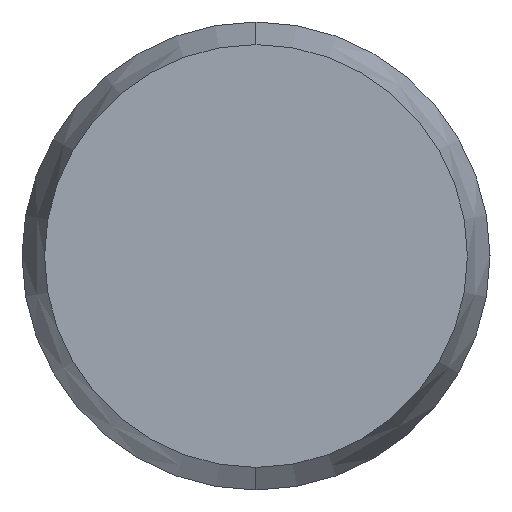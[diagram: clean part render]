
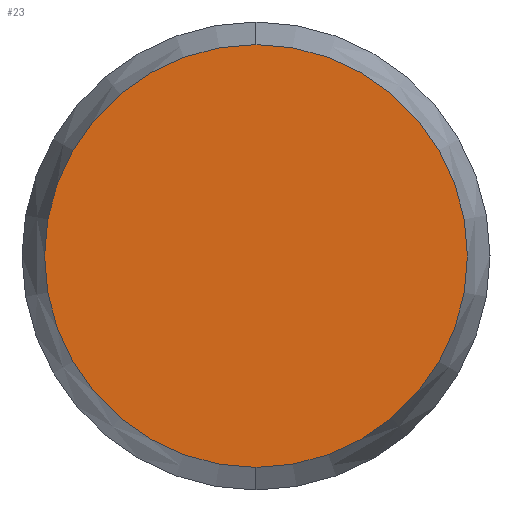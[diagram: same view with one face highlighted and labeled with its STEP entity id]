
A CAD part, left-side view. The second image highlights one B-rep face of the part: STEP entity #23.
In plain terms, the highlighted planar face has unit normal (-1, 0, 0).
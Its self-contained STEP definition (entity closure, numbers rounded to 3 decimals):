
#15 = VERTEX_POINT ( 'NONE', #61 ) ;
#16 = VERTEX_POINT ( 'NONE', #60 ) ;
#19 = EDGE_CURVE ( 'NONE', #16, #15, #32, .T. ) ;
#23 = ADVANCED_FACE ( 'NONE', ( #81 ), #79, .F. ) ;
#24 = EDGE_LOOP ( 'NONE', ( #25, #51 ) ) ;
#25 = ORIENTED_EDGE ( 'NONE', *, *, #19, .F. ) ;
#27 = EDGE_CURVE ( 'NONE', #15, #16, #77, .T. ) ;
#30 = DIRECTION ( 'NONE',  ( 1., 0., 0. ) ) ;
#31 = AXIS2_PLACEMENT_3D ( 'NONE', #59, #30, #71 ) ;
#32 = CIRCLE ( 'NONE', #31, 1.129 ) ;
#51 = ORIENTED_EDGE ( 'NONE', *, *, #27, .F. ) ;
#59 = CARTESIAN_POINT ( 'NONE',  ( -7., 0., 0. ) ) ;
#60 = CARTESIAN_POINT ( 'NONE',  ( -7., 0., 1.129 ) ) ;
#61 = CARTESIAN_POINT ( 'NONE',  ( -7., 0., -1.129 ) ) ;
#71 = DIRECTION ( 'NONE',  ( 0., 0., -1. ) ) ;
#77 = CIRCLE ( 'NONE', #82, 1.129 ) ;
#78 = DIRECTION ( 'NONE',  ( 1., 0., 0. ) ) ;
#79 = PLANE ( 'NONE',  #80 ) ;
#80 = AXIS2_PLACEMENT_3D ( 'NONE', #84, #78, #83 ) ;
#81 = FACE_OUTER_BOUND ( 'NONE', #24, .T. ) ;
#82 = AXIS2_PLACEMENT_3D ( 'NONE', #87, #86, #85 ) ;
#83 = DIRECTION ( 'NONE',  ( 0., 0., -1. ) ) ;
#84 = CARTESIAN_POINT ( 'NONE',  ( -7., 0., 0. ) ) ;
#85 = DIRECTION ( 'NONE',  ( 0., 0., -1. ) ) ;
#86 = DIRECTION ( 'NONE',  ( 1., 0., 0. ) ) ;
#87 = CARTESIAN_POINT ( 'NONE',  ( -7., 0., 0. ) ) ;
